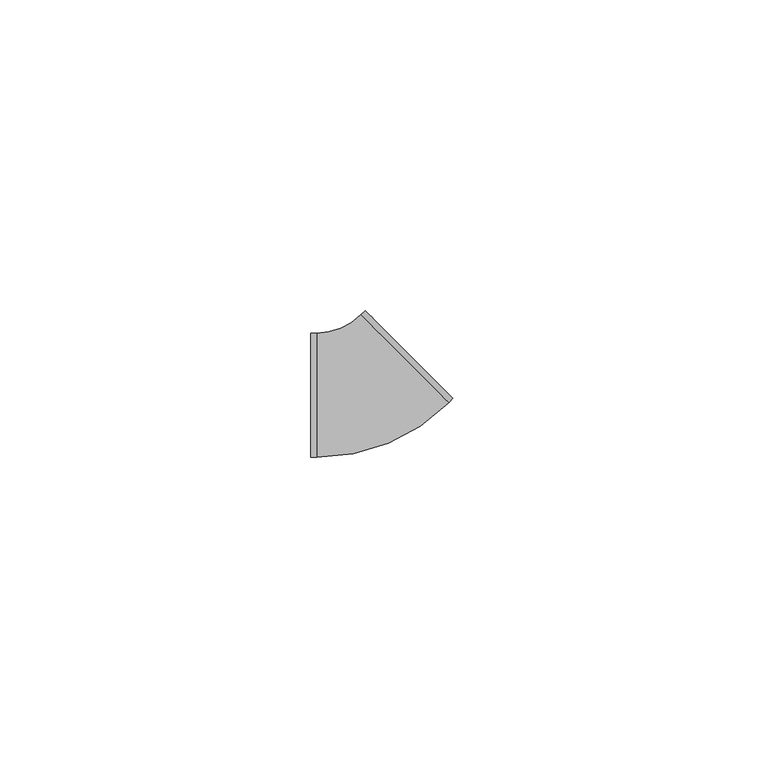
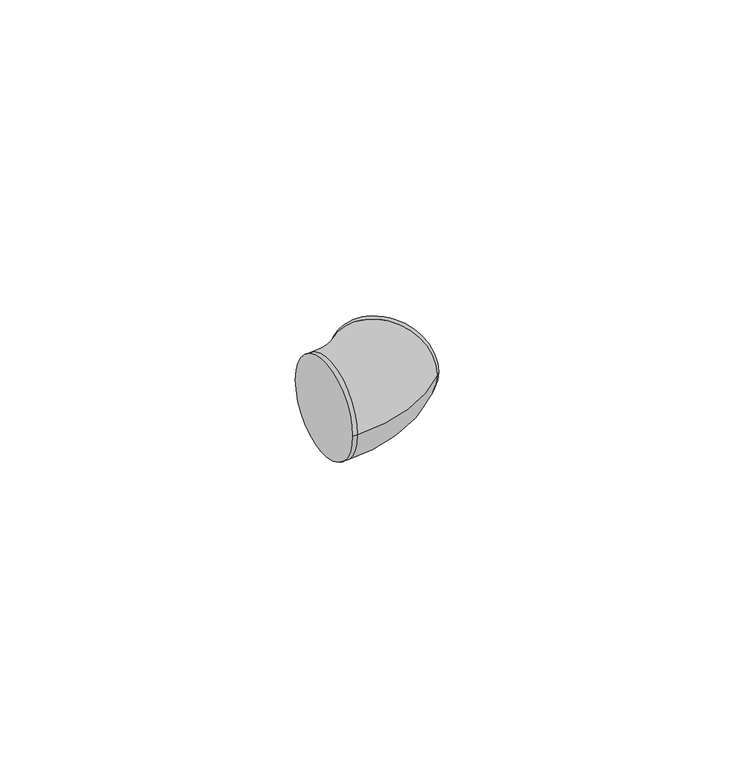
"""IFC4 building model written with IfcOpenShell, lengths in millimetres: cable carrier fitting geometry, ADSK_Поворот_Минимальный размер : Неспецифицируемый."""

from ifc_helpers import new_model, si_unit, point, frame, origin, place, context, project, spatial, circle_curve, ellipse_curve, trimmed, source, transform, mapped, element, save
from ifc_brep_helpers import plane_surface, cylinder_surface, revolved_surface, advanced_brep


def cable_carrier_fitting_878e7cbb(model_context):
    return source(origin(), model_context, "Body", "AdvancedBrep", [
        advanced_brep(
        [(-9.2842724, -10.0, 0.0), (-9.2842724, 10.0, 0.0), (-8.2842724, -10.0, 0.0), (-8.2842724, 10.0, 0.0), (-1.2132039, 12.9289329, 0.0), (12.9289332, -1.2132013, 0.0), (13.6360399, -0.5060944, 0.0), (-0.5060972, 13.6360398, 0.0)],
        [
            (0, 1, circle_curve(frame((-9.2842724, 0.0, 0.0), z_axis=(-1.0, -4.92260399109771e-12, 0.0), x_axis=(-4.92260399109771e-12, 1.0, 0.0)), 10.0)),
            (1, 0, circle_curve(frame((-9.2842724, 0.0, 0.0), z_axis=(-1.0, -4.92260399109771e-12, 0.0), x_axis=(-4.92260399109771e-12, 1.0, 0.0)), 10.0)),
            (0, 2),
            (2, 3, circle_curve(frame((-8.2842724, 0.0, 0.0), z_axis=(-1.0, -4.92260399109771e-12, 0.0), x_axis=(-4.92260399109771e-12, 1.0, 0.0)), 10.0)),
            (3, 1),
            (3, 2, circle_curve(frame((-8.2842724, 0.0, 0.0), z_axis=(-1.0, -4.92260399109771e-12, 0.0), x_axis=(-4.92260399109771e-12, 1.0, 0.0)), 10.0)),
            (4, 3, circle_curve(frame((-8.2842724, 20.0, 0.0), z_axis=(0.0, 0.0, -1.0), x_axis=(0.0, -1.0, 0.0)), 10.0)),
            (2, 5, circle_curve(frame((-8.2842724, 20.0, 0.0), z_axis=(0.0, 0.0, 1.0), x_axis=(0.0, -1.0, 0.0)), 30.0)),
            (5, 4, circle_curve(frame((5.8578646, 5.8578658, 0.0), z_axis=(-0.707106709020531, -0.7071068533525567, 0.0), x_axis=(-0.7071068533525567, 0.707106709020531, 0.0)), 10.0)),
            (4, 5, circle_curve(frame((5.8578646, 5.8578658, 0.0), z_axis=(-0.7071067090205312, -0.7071068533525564, 0.0), x_axis=(-0.7071068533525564, 0.7071067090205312, 0.0)), 10.0)),
            (6, 7, circle_curve(frame((6.5649713, 6.5649727, 0.0), z_axis=(0.7071067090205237, 0.7071068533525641, 0.0), x_axis=(-0.7071068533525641, 0.7071067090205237, 0.0)), 10.0)),
            (7, 6, circle_curve(frame((6.5649713, 6.5649727, 0.0), z_axis=(0.7071067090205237, 0.7071068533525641, 0.0), x_axis=(-0.7071068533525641, 0.7071067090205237, 0.0)), 10.0)),
            (5, 6),
            (7, 4),
        ],
        [
            plane_surface(frame((-9.2842724, 0.0, 0.0), z_axis=(-1.0, -4.92260399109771e-12, 0.0), x_axis=(0.0, 0.0, 1.0))),
            cylinder_surface(frame((-9.2842724, 0.0, 0.0), z_axis=(-1.0, -4.92260399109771e-12, 0.0), x_axis=(-4.92260399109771e-12, 1.0, 0.0)), 10.0),
            revolved_surface(trimmed(ellipse_curve(frame((-8.2842724, 0.0, 0.0), z_axis=(-1.0, 0.0, 0.0), x_axis=(0.0, 1.0, 0.0)), 10.0, 10.0), [point((-8.2842724, -10.0, 0.0))], [point((-8.2842724, 10.0, 0.0))], True, "CARTESIAN"), (-8.2842724, 20.0, 0.0), (0.0, 0.0, 1.0)),
            revolved_surface(trimmed(ellipse_curve(frame((-8.2842724, 0.0, 0.0), z_axis=(-1.0, 0.0, 0.0), x_axis=(0.0, 1.0, 0.0)), 10.0, 10.0), [point((-8.2842724, 10.0, 0.0))], [point((-8.2842724, -10.0, 0.0))], True, "CARTESIAN"), (-8.2842724, 20.0, 0.0), (0.0, 0.0, 1.0)),
            plane_surface(frame((6.5649713, 6.5649727, 0.0), z_axis=(0.7071067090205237, 0.7071068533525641, 0.0), x_axis=(0.0, 0.0, 1.0))),
            cylinder_surface(frame((5.8578646, 5.8578658, 0.0), z_axis=(-0.7071067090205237, -0.7071068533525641, 0.0), x_axis=(-0.7071068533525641, 0.7071067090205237, 0.0)), 10.0),
        ],
        [
            (0, [[1, 2]]),
            (1, [[-1, 3, 4, 5]]),
            (1, [[-2, -5, 6, -3]]),
            (2, [[7, -4, 8, 9]]),
            (3, [[-8, -6, -7, 10]]),
            (4, [[11, 12]]),
            (5, [[-9, 13, -12, 14]]),
            (5, [[-10, -14, -11, -13]]),
        ],
    ),
    ])


if __name__ == "__main__":
    model = new_model("IFC4")
    model_context = context("Model", 3, world=origin())
    ifc_project = project(units=[si_unit("LENGTHUNIT", "METRE", prefix="MILLI")], contexts=[model_context])
    site = spatial("IfcSite", under=ifc_project)
    building = spatial("IfcBuilding", under=site)
    placement = place(None, origin())
    cable_carrier_fitting_shape = cable_carrier_fitting_878e7cbb(model_context)
    element("IfcCableCarrierFitting", 1, ObjectType="ADSK_Поворот_Минимальный размер : Неспецифицируемый", at=placement, inside=building, context=model_context, shape_type="MappedRepresentation", body=[
        mapped(cable_carrier_fitting_shape, transform((0.0, 0.0, 0.0), x_axis=(1.0, 0.0, 0.0), y_axis=(0.0, 1.0, 0.0), z_axis=(0.0, 0.0, 1.0))),
    ])
    save(model, "model.ifc")
